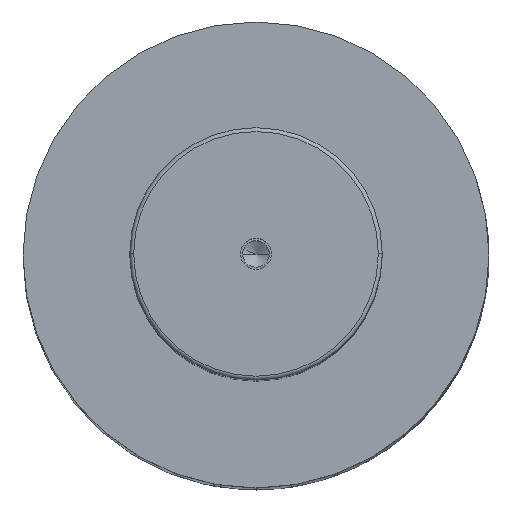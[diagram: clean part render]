
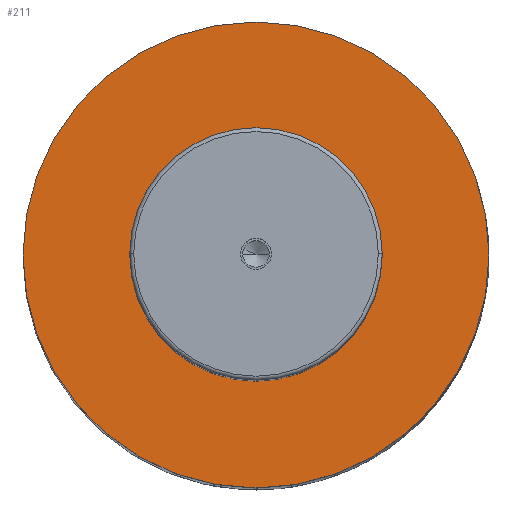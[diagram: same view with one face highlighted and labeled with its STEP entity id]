
A CAD part, top view. The second image highlights one B-rep face of the part: STEP entity #211.
In plain terms, the highlighted planar face has unit normal (0, 0, 1).
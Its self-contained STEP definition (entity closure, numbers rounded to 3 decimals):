
#109=PLANE('',#1266);
#138=FACE_BOUND('',#359,.T.);
#139=FACE_BOUND('',#360,.T.);
#211=ADVANCED_FACE('',(#138,#139),#109,.T.);
#359=EDGE_LOOP('',(#571,#572));
#360=EDGE_LOOP('',(#573,#574));
#451=CIRCLE('',#1260,32.5);
#452=CIRCLE('',#1262,32.5);
#453=CIRCLE('',#1264,60.);
#454=CIRCLE('',#1265,60.);
#571=ORIENTED_EDGE('',*,*,#970,.F.);
#572=ORIENTED_EDGE('',*,*,#971,.F.);
#573=ORIENTED_EDGE('',*,*,#969,.T.);
#574=ORIENTED_EDGE('',*,*,#967,.T.);
#856=VERTEX_POINT('',#1837);
#857=VERTEX_POINT('',#1839);
#858=VERTEX_POINT('',#1845);
#859=VERTEX_POINT('',#1846);
#967=EDGE_CURVE('',#857,#856,#451,.T.);
#969=EDGE_CURVE('',#856,#857,#452,.T.);
#970=EDGE_CURVE('',#858,#859,#453,.T.);
#971=EDGE_CURVE('',#859,#858,#454,.T.);
#1260=AXIS2_PLACEMENT_3D('',#1838,#1456,#1457);
#1262=AXIS2_PLACEMENT_3D('',#1842,#1461,#1462);
#1264=AXIS2_PLACEMENT_3D('',#1844,#1465,#1466);
#1265=AXIS2_PLACEMENT_3D('',#1847,#1467,#1468);
#1266=AXIS2_PLACEMENT_3D('',#1848,#1469,#1470);
#1456=DIRECTION('',(0.,0.,-1.));
#1457=DIRECTION('',(0.,1.,0.));
#1461=DIRECTION('',(0.,0.,-1.));
#1462=DIRECTION('',(0.,-1.,0.));
#1465=DIRECTION('',(0.,0.,-1.));
#1466=DIRECTION('',(0.,1.,0.));
#1467=DIRECTION('',(0.,0.,-1.));
#1468=DIRECTION('',(0.,-1.,0.));
#1469=DIRECTION('',(0.,0.,1.));
#1470=DIRECTION('',(0.,-1.,0.));
#1837=CARTESIAN_POINT('',(-32.5,0.,297.));
#1838=CARTESIAN_POINT('',(0.,0.,297.));
#1839=CARTESIAN_POINT('',(32.5,0.,297.));
#1842=CARTESIAN_POINT('',(0.,0.,297.));
#1844=CARTESIAN_POINT('',(0.,0.,297.));
#1845=CARTESIAN_POINT('',(60.,0.,297.));
#1846=CARTESIAN_POINT('',(-60.,0.,297.));
#1847=CARTESIAN_POINT('',(0.,0.,297.));
#1848=CARTESIAN_POINT('',(0.,0.,297.));
